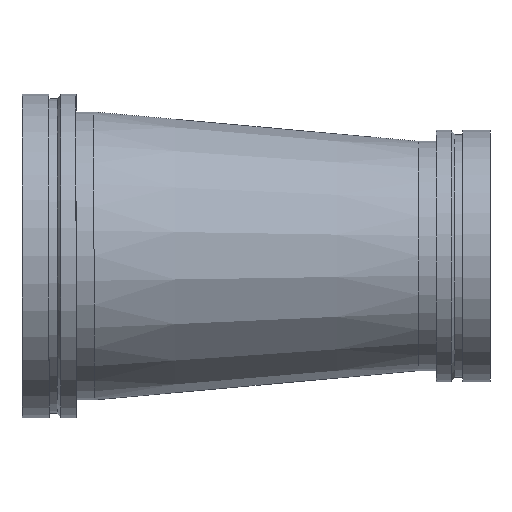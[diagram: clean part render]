
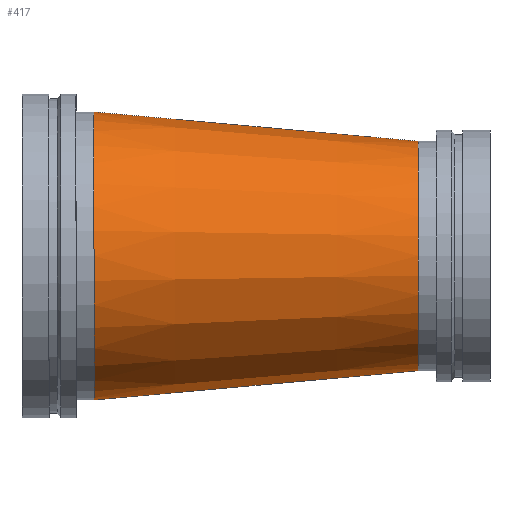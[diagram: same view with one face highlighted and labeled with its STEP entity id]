
A CAD part, top view. The second image highlights one B-rep face of the part: STEP entity #417.
In plain terms, the highlighted conical face has half-angle 5.159 degrees and reference radius 182.562 mm.
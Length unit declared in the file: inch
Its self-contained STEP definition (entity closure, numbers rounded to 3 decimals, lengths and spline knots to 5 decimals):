
#46=CONICAL_SURFACE('',#475,7.1875,0.09);
#54=LINE('',#739,#68);
#68=VECTOR('',#587,7.1875);
#101=FACE_OUTER_BOUND('',#124,.T.);
#124=EDGE_LOOP('',(#315,#316,#317,#318,#319,#320));
#155=CIRCLE('',#473,8.);
#156=CIRCLE('',#474,8.);
#157=CIRCLE('',#476,6.375);
#158=CIRCLE('',#477,6.375);
#195=VERTEX_POINT('',#729);
#196=VERTEX_POINT('',#730);
#197=VERTEX_POINT('',#735);
#198=VERTEX_POINT('',#736);
#239=EDGE_CURVE('',#195,#196,#155,.T.);
#240=EDGE_CURVE('',#196,#195,#156,.T.);
#242=EDGE_CURVE('',#197,#198,#157,.T.);
#243=EDGE_CURVE('',#198,#197,#158,.T.);
#244=EDGE_CURVE('',#198,#196,#54,.T.);
#315=ORIENTED_EDGE('',*,*,#242,.F.);
#316=ORIENTED_EDGE('',*,*,#243,.F.);
#317=ORIENTED_EDGE('',*,*,#244,.T.);
#318=ORIENTED_EDGE('',*,*,#240,.T.);
#319=ORIENTED_EDGE('',*,*,#239,.T.);
#320=ORIENTED_EDGE('',*,*,#244,.F.);
#417=ADVANCED_FACE('',(#101),#46,.T.);
#473=AXIS2_PLACEMENT_3D('',#731,#576,#577);
#474=AXIS2_PLACEMENT_3D('',#732,#578,#579);
#475=AXIS2_PLACEMENT_3D('',#734,#581,#582);
#476=AXIS2_PLACEMENT_3D('',#737,#583,#584);
#477=AXIS2_PLACEMENT_3D('',#738,#585,#586);
#576=DIRECTION('center_axis',(1.,0.,0.));
#577=DIRECTION('ref_axis',(0.,0.,-1.));
#578=DIRECTION('center_axis',(1.,0.,0.));
#579=DIRECTION('ref_axis',(0.,0.,-1.));
#581=DIRECTION('center_axis',(-1.,0.,0.));
#582=DIRECTION('ref_axis',(0.,1.,0.));
#583=DIRECTION('center_axis',(1.,0.,0.));
#584=DIRECTION('ref_axis',(0.,0.,-1.));
#585=DIRECTION('center_axis',(1.,0.,0.));
#586=DIRECTION('ref_axis',(0.,0.,-1.));
#587=DIRECTION('',(-0.996,-0.09,0.));
#729=CARTESIAN_POINT('',(4.,8.,0.));
#730=CARTESIAN_POINT('',(4.,-8.,0.));
#731=CARTESIAN_POINT('Origin',(4.,0.,0.));
#732=CARTESIAN_POINT('Origin',(4.,0.,0.));
#734=CARTESIAN_POINT('Origin',(13.,0.,0.));
#735=CARTESIAN_POINT('',(22.,6.375,0.));
#736=CARTESIAN_POINT('',(22.,-6.375,0.));
#737=CARTESIAN_POINT('Origin',(22.,0.,0.));
#738=CARTESIAN_POINT('Origin',(22.,0.,0.));
#739=CARTESIAN_POINT('',(13.,-7.1875,0.));
